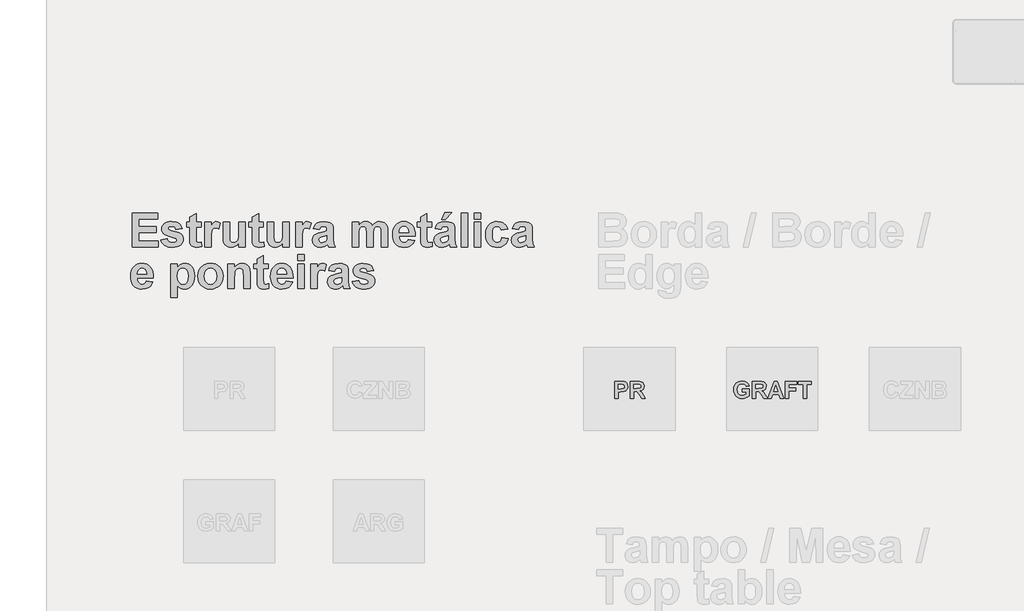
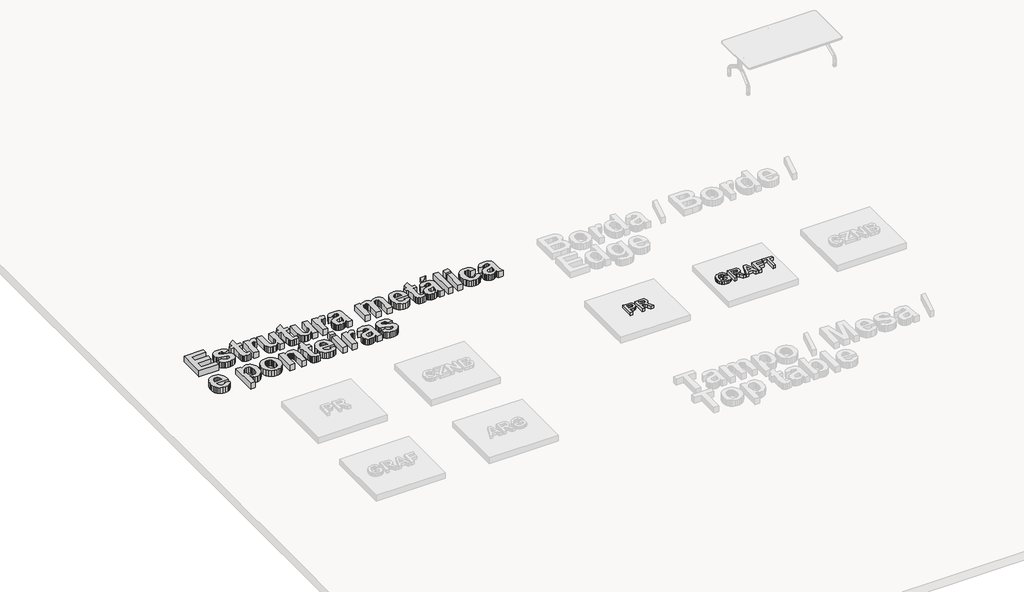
# One storey, part 4 of 11: 3 proxies.
"""IFC4 building model written with IfcOpenShell, lengths in millimetres."""

from ifc_helpers import new_model, si_unit, frame, origin, origin_with_axes, place, context, project, spatial, polyline, outline, extrude, element, save

model = new_model("IFC4")

# Units and contexts
model_context = context("Model", 3, world=origin())
ifc_project = project(units=[si_unit("LENGTHUNIT", "METRE", prefix="MILLI")], contexts=[model_context])

# Site, building, storey
site = spatial("IfcSite", under=ifc_project)
building = spatial("IfcBuilding", under=site)
storey = spatial("IfcBuildingStorey", under=building, Name="Biblioteca BIM Revit Metadil - Refeitório", Elevation=0.0)

# Proxies
placement = place(None, origin())
element("IfcBuildingElementProxy", 1, Name="Arial 200mm", ObjectType="Arial 200mm", at=placement, inside=storey, context=model_context, shape_type="SweptSolid", body=[
    extrude(outline(polyline([(-10237.345419, 2034.67545), (-10237.345419, 2070.303556), (-10149.8946133, 2070.303556), (-10149.8946133, 1988.925723), (-10165.5072138, 1976.9885361), (-10186.8385301, 1966.5822445), (-10211.1810287, 1959.3516115), (-10235.8271759, 1956.9414005), (-10265.2937451, 1960.2941875), (-10290.73697, 1970.3525484), (-10311.2585566, 1986.6420322), (-10325.9602112, 2008.688188), (-10334.8039775, 2034.7070801), (-10337.7518997, 2062.9147727), (-10334.4180907, 2092.9317051), (-10324.416664, 2119.4187221), (-10307.9880078, 2141.2624455), (-10285.3725108, 2157.3494969), (-10263.3832891, 2164.9407127), (-10236.5862975, 2167.4711179), (-10202.8243653, 2163.3845135), (-10177.3495104, 2151.1247), (-10159.8201279, 2131.6532315), (-10149.8946133, 2105.9316621), (-10188.7616381, 2099.4538246), (-10195.3027357, 2112.8966025), (-10205.8165695, 2123.1637219), (-10219.8729707, 2129.6731894), (-10237.0417704, 2131.8430119), (-10262.4849953, 2127.6045831), (-10282.1335921, 2114.8892967), (-10294.6970542, 2093.8236729), (-10298.8848749, 2064.5342321), (-10294.7223583, 2033.0496646), (-10282.2348083, 2010.5606879), (-10262.9910763, 1997.0673019), (-10238.5600136, 1992.5695065), (-10211.81363, 1997.5037968), (-10188.7616381, 2009.4726136), (-10188.7616381, 2034.67545), (-10237.345419, 2034.67545)])), frame((0.0, 0.0, 100.0), z_axis=(0.0, 0.0, 1.0), x_axis=(1.0, 0.0, 0.0)), (0.0, 0.0, 1.0), 50.0),
    extrude(outline(polyline([(-10111.0275886, 1960.1803192), (-10111.0275886, 2164.2321992), (-10025.1962422, 2164.2321992), (-9997.2352641, 2162.8531283), (-9978.1307044, 2158.7159158), (-9964.921989, 2151.0487878), (-9954.6485436, 2139.079971), (-9948.0441859, 2123.9354955), (-9945.8427333, 2106.7413918), (-9949.0247179, 2085.675768), (-9958.5706718, 2068.6334886), (-9974.4552908, 2056.3863271), (-9996.6532709, 2049.7060572), (-9976.2582045, 2032.7017339), (-9954.5979355, 1999.7558575), (-9929.6481397, 1960.1803192), (-9975.04361, 1960.1803192), (-10004.5987434, 2006.7903841), (-10027.8025596, 2034.4477135), (-10041.0618832, 2042.2666658), (-10063.2535373, 2044.3922062), (-10072.1605638, 2044.3922062), (-10072.1605638, 1960.1803192), (-10111.0275886, 1960.1803192)]), holes=[polyline([(-10072.1605638, 2080.0203122), (-10040.1256332, 2080.0203122), (-10001.2333044, 2082.3735891), (-9989.0873592, 2090.4708859), (-9984.7097581, 2104.8182838), (-9986.1520891, 2113.5545079), (-9990.4790821, 2120.4308842), (-10006.7748919, 2127.9461878), (-10038.3543496, 2128.6040932), (-10072.1605638, 2128.6040932), (-10072.1605638, 2080.0203122)])]), frame((0.0, 0.0, 100.0), z_axis=(0.0, 0.0, 1.0), x_axis=(1.0, 0.0, 0.0)), (0.0, 0.0, 1.0), 50.0),
    extrude(outline(polyline([(-9735.3130159, 1960.1803192), (-9776.1537567, 1960.1803192), (-9792.145918, 2005.5251814), (-9869.2220621, 2005.5251814), (-9885.0117909, 1960.1803192), (-9926.4092209, 1960.1803192), (-9851.9140902, 2164.2321992), (-9810.5166601, 2164.2321992), (-9735.3130159, 1960.1803192)]), holes=[polyline([(-9804.5955118, 2041.1532875), (-9830.8611184, 2115.6484183), (-9856.7724683, 2041.1532875), (-9804.5955118, 2041.1532875)])]), frame((0.0, 0.0, 100.0), z_axis=(0.0, 0.0, 1.0), x_axis=(1.0, 0.0, 0.0)), (0.0, 0.0, 1.0), 50.0),
    extrude(outline(polyline([(-9715.8795035, 1960.1803192), (-9715.8795035, 2164.2321992), (-9576.6059981, 2164.2321992), (-9576.6059981, 2128.6040932), (-9677.0124787, 2128.6040932), (-9677.0124787, 2083.259231), (-9589.561673, 2083.259231), (-9589.561673, 2047.6311249), (-9677.0124787, 2047.6311249), (-9677.0124787, 1960.1803192), (-9715.8795035, 1960.1803192)])), frame((0.0, 0.0, 100.0), z_axis=(0.0, 0.0, 1.0), x_axis=(1.0, 0.0, 0.0)), (0.0, 0.0, 1.0), 50.0),
    extrude(outline(polyline([(-9498.8719486, 1960.1803192), (-9498.8719486, 2128.6040932), (-9557.1724857, 2128.6040932), (-9557.1724857, 2164.2321992), (-9401.7043867, 2164.2321992), (-9401.7043867, 2128.6040932), (-9460.0049238, 2128.6040932), (-9460.0049238, 1960.1803192), (-9498.8719486, 1960.1803192)])), frame((0.0, 0.0, 100.0), z_axis=(0.0, 0.0, 1.0), x_axis=(1.0, 0.0, 0.0)), (0.0, 0.0, 1.0), 50.0),
])
element("IfcBuildingElementProxy", 2, Name="Arial 200mm", ObjectType="Arial 200mm", at=placement, inside=storey, context=model_context, shape_type="SweptSolid", body=[
    extrude(outline(polyline([(-11769.4881327, 1960.1803192), (-11769.4881327, 2164.2321992), (-11703.7482041, 2164.2321992), (-11655.0125988, 2161.1957129), (-11638.9761555, 2153.9524279), (-11625.7864181, 2141.3320316), (-11616.9616298, 2123.8026492), (-11614.0200336, 2101.8324056), (-11615.7470352, 2084.6446278), (-11620.92804, 2070.4300763), (-11628.7722963, 2059.0685567), (-11638.4890525, 2050.4398748), (-11660.1240174, 2040.7990307), (-11703.3939474, 2037.9143687), (-11730.6211079, 2037.9143687), (-11730.6211079, 1960.1803192), (-11769.4881327, 1960.1803192)]), holes=[polyline([(-11730.6211079, 2128.6040932), (-11730.6211079, 2073.5424748), (-11706.4810418, 2073.5424748), (-11671.6373614, 2076.5789611), (-11657.8719568, 2086.1185889), (-11652.8870584, 2101.2251083), (-11654.639364, 2110.8786044), (-11659.896281, 2118.6849046), (-11677.5838137, 2127.2882825), (-11709.3150957, 2128.6040932), (-11730.6211079, 2128.6040932)])]), frame((0.0, 0.0, 100.0), z_axis=(0.0, 0.0, 1.0), x_axis=(1.0, 0.0, 0.0)), (0.0, 0.0, 1.0), 50.0),
    extrude(outline(polyline([(-11581.6308463, 1960.1803192), (-11581.6308463, 2164.2321992), (-11495.7995, 2164.2321992), (-11467.8385219, 2162.8531283), (-11448.7339622, 2158.7159158), (-11435.5252468, 2151.0487878), (-11425.2518014, 2139.079971), (-11418.6474437, 2123.9354955), (-11416.4459911, 2106.7413918), (-11419.6279757, 2085.675768), (-11429.1739296, 2068.6334886), (-11445.0585486, 2056.3863271), (-11467.2565287, 2049.7060572), (-11446.8614623, 2032.7017339), (-11425.2011933, 1999.7558575), (-11400.2513975, 1960.1803192), (-11445.6468678, 1960.1803192), (-11475.2020012, 2006.7903841), (-11498.4058174, 2034.4477135), (-11511.665141, 2042.2666658), (-11533.8567951, 2044.3922062), (-11542.7638216, 2044.3922062), (-11542.7638216, 1960.1803192), (-11581.6308463, 1960.1803192)]), holes=[polyline([(-11542.7638216, 2080.0203122), (-11510.728891, 2080.0203122), (-11471.8365622, 2082.3735891), (-11459.690617, 2090.4708859), (-11455.3130159, 2104.8182838), (-11456.7553469, 2113.5545079), (-11461.0823399, 2120.4308842), (-11477.3781497, 2127.9461878), (-11508.9576073, 2128.6040932), (-11542.7638216, 2128.6040932), (-11542.7638216, 2080.0203122)])]), frame((0.0, 0.0, 100.0), z_axis=(0.0, 0.0, 1.0), x_axis=(1.0, 0.0, 0.0)), (0.0, 0.0, 1.0), 50.0),
])
element("IfcBuildingElementProxy", 3, Name="Arial 400mm", ObjectType="Arial 400mm", at=placement, inside=storey, context=model_context, shape_type="SweptSolid", body=[
    extrude(outline(polyline([(-17581.407689, 3784.7471537), (-17581.407689, 4192.8509137), (-17276.9493284, 4192.8509137), (-17276.9493284, 4121.5947017), (-17503.6736395, 4121.5947017), (-17503.6736395, 4030.9049772), (-17289.9050033, 4030.9049772), (-17289.9050033, 3959.6487652), (-17503.6736395, 3959.6487652), (-17503.6736395, 3856.0033658), (-17270.4714909, 3856.0033658), (-17270.4714909, 3784.7471537), (-17581.407689, 3784.7471537)])), origin_with_axes(), (0.0, 0.0, 1.0), 100.0),
    extrude(outline(polyline([(-17238.0823036, 3868.9590407), (-17160.3482541, 3881.9147156), (-17152.9468187, 3862.3293789), (-17140.4592687, 3848.1085014), (-17122.4554353, 3839.4545154), (-17098.5051496, 3836.5698534), (-17072.5178876, 3839.3279952), (-17053.8688008, 3847.6024203), (-17046.2775851, 3856.6106631), (-17043.7471798, 3868.2505272), (-17049.1116389, 3882.8256615), (-17074.5169077, 3893.0484988), (-17149.5940317, 3912.9374841), (-17191.0167658, 3931.1057939), (-17205.9398308, 3944.3208353), (-17216.599163, 3959.8765016), (-17222.9947622, 3977.7727928), (-17225.1266287, 3998.0097089), (-17223.2984109, 4016.5259493), (-17217.8137575, 4033.5112946), (-17208.6726685, 4048.9657447), (-17195.8751439, 4062.8892997), (-17179.2314033, 4074.4026436), (-17158.5516663, 4082.6264607), (-17133.835933, 4087.5607509), (-17105.0842032, 4089.2055144), (-17054.0965373, 4083.8916633), (-17034.239182, 4077.2493495), (-17018.1394786, 4067.9501102), (-17005.0256533, 4056.0445535), (-16994.1259327, 4041.5832874), (-16978.9688052, 4004.9936274), (-17056.7028547, 3992.0379525), (-17062.4215706, 4008.662715), (-17071.6828538, 4020.8845724), (-17085.0433936, 4028.399876), (-17103.059879, 4030.9049772), (-17125.200925, 4028.7794368), (-17140.0037958, 4022.4028156), (-17145.5453833, 4015.418897), (-17147.3925792, 4006.6130867), (-17145.5453833, 3998.9965669), (-17140.0037958, 3992.5440335), (-17117.8500978, 3983.2574462), (-17071.2273809, 3970.7825483), (-17021.2645291, 3955.0687316), (-16989.0904262, 3936.0653882), (-16978.9941092, 3924.5583702), (-16971.7824543, 3910.9890721), (-16967.4554613, 3895.3574936), (-16966.0131303, 3877.6636348), (-16968.1038776, 3857.9865709), (-16974.3761197, 3839.745512), (-16984.8298564, 3822.9404581), (-16999.4650878, 3807.5714092), (-17018.1995757, 3794.7517435), (-17040.951082, 3785.5948395), (-17067.7196066, 3780.1006971), (-17098.5051496, 3778.2693163), (-17126.7096792, 3779.7938854), (-17151.8081363, 3784.367593), (-17173.800521, 3791.9904388), (-17192.6868333, 3802.662423), (-17208.5240072, 3815.9533766), (-17221.3689769, 3831.4331307), (-17231.2217423, 3849.1016855), (-17238.0823036, 3868.9590407)])), origin_with_axes(), (0.0, 0.0, 1.0), 100.0),
    extrude(outline(polyline([(-16752.2444941, 4082.7276769), (-16752.2444941, 4024.4271398), (-16810.5450312, 4024.4271398), (-16810.5450312, 3896.5910661), (-16808.7737476, 3851.3980282), (-16800.7270588, 3840.7703261), (-16785.4434111, 3836.5698534), (-16749.0055754, 3844.059853), (-16745.7666566, 3788.7958022), (-16775.7519589, 3780.9009377), (-16809.4316529, 3778.2693163), (-16830.1303679, 3780.0912081), (-16848.7035425, 3785.5568834), (-16863.873322, 3793.9072208), (-16874.3618518, 3804.3830985), (-16881.2825102, 3817.9713748), (-16885.7486755, 3835.6589075), (-16888.2790808, 3892.2387691), (-16888.2790808, 4024.4271398), (-16927.1461055, 4024.4271398), (-16927.1461055, 4082.7276769), (-16888.2790808, 4082.7276769), (-16888.2790808, 4141.028214), (-16810.5450312, 4186.3730763), (-16810.5450312, 4082.7276769), (-16752.2444941, 4082.7276769)])), origin_with_axes(), (0.0, 0.0, 1.0), 100.0),
    extrude(outline(polyline([(-16629.1655824, 3784.7471537), (-16706.8996319, 3784.7471537), (-16706.8996319, 4082.7276769), (-16629.1655824, 4082.7276769), (-16629.1655824, 4041.2290307), (-16612.7432522, 4065.6347894), (-16598.0922058, 4079.9442311), (-16583.3652472, 4086.8901935), (-16566.7151806, 4089.2055144), (-16542.4485942, 4085.1062578), (-16519.0423455, 4072.8084883), (-16541.7147766, 3998.8194386), (-16560.4397755, 4008.3084583), (-16577.7477475, 4011.4714648), (-16592.6897906, 4009.2573602), (-16605.1267324, 4002.6150464), (-16615.1218332, 3990.2034086), (-16622.738353, 3970.6813321), (-16627.558775, 3934.9520098), (-16629.1655824, 3873.918635), (-16629.1655824, 3784.7471537)])), origin_with_axes(), (0.0, 0.0, 1.0), 100.0),
    extrude(outline(polyline([(-16298.7958719, 3784.7471537), (-16298.7958719, 3828.4725566), (-16316.6984891, 3807.5840612), (-16339.4341803, 3791.6804641), (-16365.3075741, 3781.6221032), (-16392.6232989, 3778.2693163), (-16419.622723, 3781.5588431), (-16443.7374851, 3791.4274236), (-16463.2722136, 3807.2551085), (-16476.5315372, 3828.4219485), (-16484.122753, 3856.8257475), (-16486.6531582, 3894.3643095), (-16486.6531582, 4082.7276769), (-16408.9191087, 4082.7276769), (-16408.9191087, 3944.9724147), (-16407.8689905, 3893.9720967), (-16404.718636, 3867.4914057), (-16398.7721836, 3854.7381632), (-16389.333772, 3844.9201908), (-16376.6437896, 3838.6574378), (-16360.942625, 3836.5698534), (-16342.3314944, 3839.3532992), (-16325.7699919, 3847.7036366), (-16312.6877968, 3860.1911865), (-16304.5145878, 3875.3862701), (-16300.2255509, 3903.8912853), (-16298.7958719, 3956.3086302), (-16298.7958719, 4082.7276769), (-16221.0618224, 4082.7276769), (-16221.0618224, 3784.7471537), (-16298.7958719, 3784.7471537)])), origin_with_axes(), (0.0, 0.0, 1.0), 100.0),
    extrude(outline(polyline([(-16000.8153487, 4082.7276769), (-16000.8153487, 4024.4271398), (-16059.1158859, 4024.4271398), (-16059.1158859, 3896.5910661), (-16057.3446022, 3851.3980282), (-16049.2979135, 3840.7703261), (-16034.0142657, 3836.5698534), (-15997.57643, 3844.059853), (-15994.3375113, 3788.7958022), (-16024.3228136, 3780.9009377), (-16058.0025076, 3778.2693163), (-16078.7012226, 3780.0912081), (-16097.2743972, 3785.5568834), (-16112.4441767, 3793.9072208), (-16122.9327065, 3804.3830985), (-16129.8533649, 3817.9713748), (-16134.3195301, 3835.6589075), (-16136.8499354, 3892.2387691), (-16136.8499354, 4024.4271398), (-16175.7169601, 4024.4271398), (-16175.7169601, 4082.7276769), (-16136.8499354, 4082.7276769), (-16136.8499354, 4141.028214), (-16059.1158859, 4186.3730763), (-16059.1158859, 4082.7276769), (-16000.8153487, 4082.7276769)])), origin_with_axes(), (0.0, 0.0, 1.0), 100.0),
    extrude(outline(polyline([(-15767.6132002, 3784.7471537), (-15767.6132002, 3828.4725566), (-15785.5158174, 3807.5840612), (-15808.2515086, 3791.6804641), (-15834.1249024, 3781.6221032), (-15861.4406271, 3778.2693163), (-15888.4400512, 3781.5588431), (-15912.5548133, 3791.4274236), (-15932.0895419, 3807.2551085), (-15945.3488655, 3828.4219485), (-15952.9400812, 3856.8257475), (-15955.4704865, 3894.3643095), (-15955.4704865, 4082.7276769), (-15877.736437, 4082.7276769), (-15877.736437, 3944.9724147), (-15876.6863188, 3893.9720967), (-15873.5359643, 3867.4914057), (-15867.5895119, 3854.7381632), (-15858.1511003, 3844.9201908), (-15845.4611179, 3838.6574378), (-15829.7599533, 3836.5698534), (-15811.1488226, 3839.3532992), (-15794.5873202, 3847.7036366), (-15781.505125, 3860.1911865), (-15773.331916, 3875.3862701), (-15769.0428791, 3903.8912853), (-15767.6132002, 3956.3086302), (-15767.6132002, 4082.7276769), (-15689.8791506, 4082.7276769), (-15689.8791506, 3784.7471537), (-15767.6132002, 3784.7471537)])), origin_with_axes(), (0.0, 0.0, 1.0), 100.0),
    extrude(outline(polyline([(-15534.4110516, 3784.7471537), (-15612.1451011, 3784.7471537), (-15612.1451011, 4082.7276769), (-15534.4110516, 4082.7276769), (-15534.4110516, 4041.2290307), (-15517.9887215, 4065.6347894), (-15503.337675, 4079.9442311), (-15488.6107164, 4086.8901935), (-15471.9606498, 4089.2055144), (-15447.6940634, 4085.1062578), (-15424.2878148, 4072.8084883), (-15446.9602459, 3998.8194386), (-15465.6852448, 4008.3084583), (-15482.9932168, 4011.4714648), (-15497.9352598, 4009.2573602), (-15510.3722017, 4002.6150464), (-15520.3673024, 3990.2034086), (-15527.9838222, 3970.6813321), (-15532.8042443, 3934.9520098), (-15534.4110516, 3873.918635), (-15534.4110516, 3784.7471537)])), origin_with_axes(), (0.0, 0.0, 1.0), 100.0),
    extrude(outline(polyline([(-15327.1202529, 3992.0379525), (-15398.3764649, 4004.9936274), (-15382.9283408, 4042.342409), (-15372.1203474, 4056.8416311), (-15359.2563997, 4068.5574075), (-15343.6849183, 4077.5909542), (-15324.754324, 4084.0434876), (-15276.8157964, 4089.2055144), (-15233.4699543, 4086.0804639), (-15202.8267466, 4076.7053124), (-15182.1280316, 4062.5350429), (-15168.6156675, 4045.0246386), (-15161.1762761, 4017.81013), (-15158.6964789, 3974.5275481), (-15158.6964789, 3882.6232291), (-15154.5972224, 3824.7275568), (-15139.2629665, 3784.7471537), (-15216.9970161, 3784.7471537), (-15224.2845832, 3809.4439091), (-15227.0174209, 3819.2618815), (-15247.1341427, 3801.3592643), (-15268.6172833, 3788.5427616), (-15291.5174509, 3780.8376776), (-15315.8852535, 3778.2693163), (-15336.8781282, 3779.8286785), (-15355.5240519, 3784.5067652), (-15371.8230248, 3792.3035764), (-15385.7750468, 3803.2191121), (-15396.956275, 3816.5132287), (-15404.9428666, 3831.4457828), (-15409.7348215, 3848.0167742), (-15411.3321399, 3866.226203), (-15408.4854339, 3890.0626206), (-15399.9453162, 3911.1662004), (-15386.2684758, 3928.6006926), (-15368.0116018, 3941.4298473), (-15342.9352857, 3951.2731238), (-15308.8001188, 3959.7499814), (-15264.593939, 3969.7450821), (-15236.4305284, 3979.0822775), (-15236.4305284, 3987.2807906), (-15238.8470655, 4007.4734245), (-15246.0966765, 4020.8845724), (-15260.0265575, 4028.399876), (-15282.4839041, 4030.9049772), (-15298.6025856, 4028.7541328), (-15310.7232268, 4022.3015993), (-15319.8832938, 4010.4339987), (-15327.1202529, 3992.0379525)]), holes=[polyline([(-15236.4305284, 3920.7817404), (-15280.2571475, 3910.002214), (-15319.5290371, 3897.7044444), (-15330.080827, 3886.6465735), (-15333.5980903, 3872.9064729), (-15330.7766885, 3859.1284163), (-15322.3124829, 3847.3493798), (-15309.4959803, 3839.264735), (-15293.6176873, 3836.5698534), (-15274.5637357, 3839.7075559), (-15256.4713381, 3849.1206635), (-15245.5905955, 3859.6977575), (-15239.2645823, 3872.4003919), (-15236.4305284, 3906.7126872), (-15236.4305284, 3920.7817404)])]), origin_with_axes(), (0.0, 0.0, 1.0), 100.0),
    extrude(outline(polyline([(-14931.9721678, 4082.7276769), (-14854.2381183, 4082.7276769), (-14854.2381183, 4042.84849), (-14835.1019285, 4063.1296882), (-14814.2324112, 4077.6162583), (-14791.6295662, 4086.3082003), (-14767.2933936, 4089.2055144), (-14742.2550336, 4086.3588084), (-14720.784545, 4077.8186907), (-14702.8566238, 4063.509249), (-14688.4459658, 4043.3545711), (-14668.5443285, 4063.509249), (-14647.0991439, 4077.8186907), (-14624.1357162, 4086.3588084), (-14599.6793494, 4089.2055144), (-14570.14952, 4085.8780314), (-14545.5286768, 4075.8955827), (-14526.1457726, 4059.4606006), (-14512.3297599, 4036.7755174), (-14506.4086116, 4011.8510256), (-14504.4348955, 3975.1348453), (-14504.4348955, 3784.7471537), (-14582.168945, 3784.7471537), (-14582.168945, 3956.3086302), (-14584.1426611, 3993.0248105), (-14590.0638094, 4013.9006539), (-14603.4749572, 4026.6538964), (-14622.6554291, 4030.9049772), (-14638.1794654, 4028.3619199), (-14652.7672517, 4020.7327481), (-14664.9131969, 4008.19459), (-14673.1117099, 3990.9245741), (-14677.7803076, 3965.5952175), (-14679.3365069, 3928.8790372), (-14679.3365069, 3784.7471537), (-14757.0705564, 3784.7471537), (-14757.0705564, 3949.2234955), (-14761.1192048, 4005.752749), (-14766.2685795, 4016.835924), (-14773.6194068, 4024.6801803), (-14783.6018555, 4029.348778), (-14796.6460946, 4030.9049772), (-14813.2708572, 4028.4378321), (-14828.124336, 4021.0363967), (-14840.118457, 4008.9663636), (-14848.1651457, 3992.4934254), (-14852.7198751, 3967.6828019), (-14854.2381183, 3930.5997128), (-14854.2381183, 3784.7471537), (-14931.9721678, 3784.7471537), (-14931.9721678, 4082.7276769)])), origin_with_axes(), (0.0, 0.0, 1.0), 100.0),
    extrude(outline(polyline([(-14258.277072, 3875.4368782), (-14180.5430225, 3862.4812033), (-14199.4704538, 3826.2078439), (-14212.1224801, 3811.7623929), (-14226.9000468, 3799.777761), (-14243.7335678, 3790.3678164), (-14262.5534569, 3783.6464275), (-14306.1523395, 3778.2693163), (-14341.3566026, 3781.4386489), (-14371.6645316, 3790.9466466), (-14397.0761264, 3806.7933095), (-14417.591387, 3828.9786376), (-14430.078937, 3850.6072766), (-14438.9986155, 3874.9054931), (-14444.3504226, 3901.8732871), (-14446.1343583, 3931.5106587), (-14443.7684294, 3966.4555553), (-14436.6706427, 3997.4024116), (-14424.8409981, 4024.3512276), (-14408.2794957, 4047.3020033), (-14388.0995137, 4065.6347894), (-14365.4144306, 4078.7296366), (-14340.2242463, 4086.5865449), (-14312.5289607, 4089.2055144), (-14281.7529068, 4086.5169588), (-14254.4055519, 4078.451292), (-14230.4868962, 4065.0085141), (-14209.9969397, 4046.188625), (-14193.6694997, 4021.8144963), (-14182.238394, 3991.7089998), (-14175.7036224, 3955.8721353), (-14174.065185, 3914.3039029), (-14368.4003088, 3914.3039029), (-14363.4154104, 3881.5604589), (-14350.0801747, 3857.0155279), (-14330.4189259, 3841.681272), (-14306.4559881, 3836.5698534), (-14290.1348742, 3838.8725222), (-14276.597206, 3845.7805286), (-14265.9441999, 3857.7999535), (-14258.277072, 3875.4368782)]), holes=[polyline([(-14251.7992345, 3959.6487652), (-14256.5310923, 3990.380537), (-14269.1072065, 4012.7366675), (-14287.3767324, 4026.3628998), (-14309.1888258, 4030.9049772), (-14332.2155136, 4026.1225113), (-14350.8899044, 4011.7751135), (-14363.1370659, 3989.1279864), (-14367.0844981, 3959.6487652), (-14251.7992345, 3959.6487652)])]), origin_with_axes(), (0.0, 0.0, 1.0), 100.0),
    extrude(outline(polyline([(-13973.2522237, 4082.7276769), (-13973.2522237, 4024.4271398), (-14031.5527609, 4024.4271398), (-14031.5527609, 3896.5910661), (-14029.7814772, 3851.3980282), (-14021.7347885, 3840.7703261), (-14006.4511407, 3836.5698534), (-13970.013305, 3844.059853), (-13966.7743863, 3788.7958022), (-13996.7596886, 3780.9009377), (-14030.4393826, 3778.2693163), (-14051.1380976, 3780.0912081), (-14069.7112722, 3785.5568834), (-14084.8810517, 3793.9072208), (-14095.3695815, 3804.3830985), (-14102.2902399, 3817.9713748), (-14106.7564051, 3835.6589075), (-14109.2868104, 3892.2387691), (-14109.2868104, 4024.4271398), (-14148.1538352, 4024.4271398), (-14148.1538352, 4082.7276769), (-14109.2868104, 4082.7276769), (-14109.2868104, 4141.028214), (-14031.5527609, 4186.3730763), (-14031.5527609, 4082.7276769), (-13973.2522237, 4082.7276769)])), origin_with_axes(), (0.0, 0.0, 1.0), 100.0),
    extrude(outline(polyline([(-13863.1289869, 3992.0379525), (-13934.385199, 4004.9936274), (-13918.9370749, 4042.342409), (-13908.1290814, 4056.8416311), (-13895.2651337, 4068.5574075), (-13879.6936523, 4077.5909542), (-13860.763058, 4084.0434876), (-13812.8245304, 4089.2055144), (-13769.4786883, 4086.0804639), (-13738.8354806, 4076.7053124), (-13718.1367656, 4062.5350429), (-13704.6244016, 4045.0246386), (-13697.1850101, 4017.81013), (-13694.705213, 3974.5275481), (-13694.705213, 3882.6232291), (-13690.6059564, 3824.7275568), (-13675.2717006, 3784.7471537), (-13753.0057501, 3784.7471537), (-13760.2933172, 3809.4439091), (-13763.0261549, 3819.2618815), (-13783.1428767, 3801.3592643), (-13804.6260174, 3788.5427616), (-13827.5261849, 3780.8376776), (-13851.8939876, 3778.2693163), (-13872.8868622, 3779.8286785), (-13891.5327859, 3784.5067652), (-13907.8317588, 3792.3035764), (-13921.7837808, 3803.2191121), (-13932.965009, 3816.5132287), (-13940.9516006, 3831.4457828), (-13945.7435556, 3848.0167742), (-13947.3408739, 3866.226203), (-13944.494168, 3890.0626206), (-13935.9540502, 3911.1662004), (-13922.2772098, 3928.6006926), (-13904.0203359, 3941.4298473), (-13878.9440198, 3951.2731238), (-13844.8088528, 3959.7499814), (-13800.602673, 3969.7450821), (-13772.4392625, 3979.0822775), (-13772.4392625, 3987.2807906), (-13774.8557995, 4007.4734245), (-13782.1054106, 4020.8845724), (-13796.0352915, 4028.399876), (-13818.4926382, 4030.9049772), (-13834.6113197, 4028.7541328), (-13846.7319608, 4022.3015993), (-13855.8920279, 4010.4339987), (-13863.1289869, 3992.0379525)]), holes=[polyline([(-13772.4392625, 3920.7817404), (-13816.2658815, 3910.002214), (-13855.5377711, 3897.7044444), (-13866.0895611, 3886.6465735), (-13869.6068244, 3872.9064729), (-13866.7854225, 3859.1284163), (-13858.3212169, 3847.3493798), (-13845.5047143, 3839.264735), (-13829.6264213, 3836.5698534), (-13810.5724697, 3839.7075559), (-13792.4800721, 3849.1206635), (-13781.5993295, 3859.6977575), (-13775.2733164, 3872.4003919), (-13772.4392625, 3906.7126872), (-13772.4392625, 3920.7817404)])]), origin_with_axes(), (0.0, 0.0, 1.0), 100.0),
    extrude(outline(polyline([(-13856.6511495, 4115.1168642), (-13817.7841247, 4199.3287512), (-13733.5722377, 4199.3287512), (-13811.3062872, 4115.1168642), (-13856.6511495, 4115.1168642)])), origin_with_axes(), (0.0, 0.0, 1.0), 100.0),
    extrude(outline(polyline([(-13616.9711634, 3784.7471537), (-13616.9711634, 4192.8509137), (-13539.2371139, 4192.8509137), (-13539.2371139, 3784.7471537), (-13616.9711634, 3784.7471537)])), origin_with_axes(), (0.0, 0.0, 1.0), 100.0),
    extrude(outline(polyline([(-13461.5030644, 4121.5947017), (-13461.5030644, 4192.8509137), (-13383.7690149, 4192.8509137), (-13383.7690149, 4121.5947017), (-13461.5030644, 4121.5947017)])), origin_with_axes(), (0.0, 0.0, 1.0), 100.0),
    extrude(outline(polyline([(-13461.5030644, 3784.7471537), (-13461.5030644, 4082.7276769), (-13383.7690149, 4082.7276769), (-13383.7690149, 3784.7471537), (-13461.5030644, 3784.7471537)])), origin_with_axes(), (0.0, 0.0, 1.0), 100.0),
    extrude(outline(polyline([(-13059.8771419, 3998.5157899), (-13137.6111914, 3985.560115), (-13143.5702958, 4005.3352321), (-13154.1600418, 4019.5181536), (-13169.0008686, 4028.0582713), (-13187.7132155, 4030.9049772), (-13212.3593627, 4025.5658221), (-13231.4386183, 4009.5483568), (-13238.5680352, 3997.0797849), (-13243.6604757, 3981.0306896), (-13247.7344282, 3938.1909286), (-13243.4959994, 3890.6952219), (-13238.1979634, 3873.0772753), (-13230.780713, 3859.5459332), (-13210.9296837, 3842.3138734), (-13185.2840264, 3836.5698534), (-13165.8631661, 3839.8467282), (-13150.3138258, 3849.6773527), (-13138.7119177, 3867.5293617), (-13131.1333539, 3894.8703906), (-13053.3993044, 3881.9147156), (-13060.5635143, 3857.8284206), (-13070.4162798, 3836.8861541), (-13082.9576008, 3819.0879161), (-13098.1874775, 3804.4337066), (-13116.1691698, 3792.9867859), (-13136.965938, 3784.8104139), (-13160.5777821, 3779.9045907), (-13187.004702, 3778.2693163), (-13217.0311234, 3780.8440036), (-13243.8502561, 3788.5680657), (-13267.4621002, 3801.4415024), (-13287.8666556, 3819.4643139), (-13304.3174528, 3842.0355288), (-13316.0680222, 3868.5541759), (-13323.1183638, 3899.0202552), (-13325.4684777, 3933.4337667), (-13323.1341789, 3968.236328), (-13316.1312823, 3998.9586108), (-13304.4597881, 4025.6006152), (-13288.1196961, 4048.1623411), (-13267.7942159, 4066.1187294), (-13244.1665568, 4078.944721), (-13217.2367188, 4086.640316), (-13187.004702, 4089.2055144), (-13140.2175088, 4083.6006667), (-13120.8282785, 4076.5946072), (-13104.1086258, 4066.7861238), (-13089.8055101, 4054.1119564), (-13077.6658908, 4038.508845), (-13059.8771419, 3998.5157899)])), origin_with_axes(), (0.0, 0.0, 1.0), 100.0),
    extrude(outline(polyline([(-12930.3203927, 3992.0379525), (-13001.5766047, 4004.9936274), (-12986.1284806, 4042.342409), (-12975.3204872, 4056.8416311), (-12962.4565394, 4068.5574075), (-12946.8850581, 4077.5909542), (-12927.9544638, 4084.0434876), (-12880.0159361, 4089.2055144), (-12836.6700941, 4086.0804639), (-12806.0268864, 4076.7053124), (-12785.3281714, 4062.5350429), (-12771.8158073, 4045.0246386), (-12764.3764159, 4017.81013), (-12761.8966187, 3974.5275481), (-12761.8966187, 3882.6232291), (-12757.7973622, 3824.7275568), (-12742.4631063, 3784.7471537), (-12820.1971558, 3784.7471537), (-12827.484723, 3809.4439091), (-12830.2175607, 3819.2618815), (-12850.3342825, 3801.3592643), (-12871.8174231, 3788.5427616), (-12894.7175907, 3780.8376776), (-12919.0853933, 3778.2693163), (-12940.0782679, 3779.8286785), (-12958.7241917, 3784.5067652), (-12975.0231646, 3792.3035764), (-12988.9751865, 3803.2191121), (-13000.1564148, 3816.5132287), (-13008.1430064, 3831.4457828), (-13012.9349613, 3848.0167742), (-13014.5322796, 3866.226203), (-13011.6855737, 3890.0626206), (-13003.145456, 3911.1662004), (-12989.4686156, 3928.6006926), (-12971.2117416, 3941.4298473), (-12946.1354255, 3951.2731238), (-12912.0002586, 3959.7499814), (-12867.7940787, 3969.7450821), (-12839.6306682, 3979.0822775), (-12839.6306682, 3987.2807906), (-12842.0472052, 4007.4734245), (-12849.2968163, 4020.8845724), (-12863.2266973, 4028.399876), (-12885.6840439, 4030.9049772), (-12901.8027254, 4028.7541328), (-12913.9233666, 4022.3015993), (-12923.0834336, 4010.4339987), (-12930.3203927, 3992.0379525)]), holes=[polyline([(-12839.6306682, 3920.7817404), (-12883.4572873, 3910.002214), (-12922.7291769, 3897.7044444), (-12933.2809668, 3886.6465735), (-12936.7982301, 3872.9064729), (-12933.9768283, 3859.1284163), (-12925.5126227, 3847.3493798), (-12912.69612, 3839.264735), (-12896.8178271, 3836.5698534), (-12877.7638755, 3839.7075559), (-12859.6714779, 3849.1206635), (-12848.7907353, 3859.6977575), (-12842.4647221, 3872.4003919), (-12839.6306682, 3906.7126872), (-12839.6306682, 3920.7817404)])]), origin_with_axes(), (0.0, 0.0, 1.0), 100.0),
    extrude(outline(polyline([(-17412.983915, 3371.7914788), (-17335.2498655, 3358.8358039), (-17354.1772968, 3322.5624445), (-17366.8293231, 3308.1169935), (-17381.6068898, 3296.1323616), (-17398.4404108, 3286.7224171), (-17417.2602999, 3280.0010281), (-17460.8591825, 3274.6239169), (-17496.0634456, 3277.7932495), (-17526.3713746, 3287.3012473), (-17551.7829694, 3303.1479102), (-17572.2982301, 3325.3332383), (-17584.78578, 3346.9618772), (-17593.7054585, 3371.2600937), (-17599.0572657, 3398.2278877), (-17600.8412014, 3427.8652593), (-17598.4752724, 3462.8101559), (-17591.3774857, 3493.7570122), (-17579.5478411, 3520.7058282), (-17562.9863387, 3543.6566039), (-17542.8063568, 3561.98939), (-17520.1212736, 3575.0842372), (-17494.9310893, 3582.9411456), (-17467.2358037, 3585.560115), (-17436.4597498, 3582.8715594), (-17409.112395, 3574.8058927), (-17385.1937393, 3561.3631147), (-17364.7037827, 3542.5432256), (-17348.3763428, 3518.169097), (-17336.945237, 3488.0636004), (-17330.4104654, 3452.226736), (-17328.772028, 3410.6585036), (-17523.1071518, 3410.6585036), (-17518.1222535, 3377.9150595), (-17504.7870178, 3353.3701285), (-17485.1257689, 3338.0358727), (-17461.1628311, 3332.9244541), (-17444.8417172, 3335.2271228), (-17431.3040491, 3342.1351292), (-17420.6510429, 3354.1545542), (-17412.983915, 3371.7914788)]), holes=[polyline([(-17406.5060776, 3456.0033658), (-17411.2379354, 3486.7351377), (-17423.8140495, 3509.0912681), (-17442.0835755, 3522.7175004), (-17463.8956688, 3527.2595779), (-17486.9223567, 3522.4771119), (-17505.5967475, 3508.1297141), (-17517.8439089, 3485.4825871), (-17521.7913411, 3456.0033658), (-17406.5060776, 3456.0033658)])]), origin_with_axes(), (0.0, 0.0, 1.0), 100.0),
    extrude(outline(polyline([(-17115.0033919, 3579.0822775), (-17037.2693423, 3579.0822775), (-17037.2693423, 3536.1666044), (-17021.2012689, 3556.1315019), (-17000.3254256, 3571.8959266), (-16975.7551905, 3582.1440679), (-16948.6039421, 3585.560115), (-16924.7896656, 3583.0202207), (-16902.841563, 3575.4005379), (-16882.7596343, 3562.7010665), (-16864.5438794, 3544.9218066), (-16849.421545, 3522.6131212), (-16838.6198776, 3496.3253736), (-16832.1388771, 3466.0585637), (-16829.9785436, 3431.8126915), (-16832.2084632, 3396.5957764), (-16838.8982221, 3365.5413778), (-16850.0478203, 3338.649496), (-16865.6572577, 3315.9201307), (-16884.4423538, 3297.8530372), (-16905.1189277, 3284.9479704), (-16927.6869796, 3277.2049303), (-16952.1465095, 3274.6239169), (-16975.1985014, 3277.0278019), (-16995.9731285, 3284.2394569), (-17016.1151544, 3297.296348), (-17037.2693423, 3317.2359415), (-17037.2693423, 3170.9785176), (-17115.0033919, 3170.9785176), (-17115.0033919, 3579.0822775)]), holes=[polyline([(-17037.2693423, 3435.2540427), (-17032.3983122, 3389.7573561), (-17026.3095246, 3372.1330835), (-17017.7852218, 3357.924858), (-16996.1629089, 3339.174555), (-16983.7481081, 3334.4869793), (-16970.2642111, 3332.9244541), (-16945.681324, 3338.655822), (-16925.5772543, 3355.8499257), (-16917.761465, 3369.1503683), (-16912.1787584, 3386.1262246), (-16907.7125931, 3431.1041781), (-16912.3052787, 3473.6149864), (-16918.0461356, 3490.1638368), (-16926.0833353, 3503.5749846), (-16946.6681821, 3521.3384296), (-16971.6812381, 3527.2595779), (-16997.5293278, 3521.4522978), (-17018.5949515, 3504.0304576), (-17026.7649975, 3491.0210116), (-17032.6007446, 3475.2217937), (-17037.2693423, 3435.2540427)])]), origin_with_axes(), (0.0, 0.0, 1.0), 100.0),
    extrude(outline(polyline([(-16791.1115189, 3434.3430968), (-16786.3164009, 3472.8938209), (-16771.931047, 3510.2046464), (-16748.7651869, 3542.5558776), (-16717.6285502, 3566.2278188), (-16680.4568969, 3580.727041), (-16639.1859872, 3585.560115), (-16607.1985017, 3582.8209513), (-16578.2411765, 3574.6034602), (-16552.3140117, 3560.9076418), (-16529.4170071, 3541.7334959), (-16510.7078232, 3518.3715294), (-16497.3441204, 3492.1122488), (-16489.3258988, 3462.9556542), (-16486.6531582, 3430.9017456), (-16489.3543658, 3398.5916335), (-16497.4579887, 3369.1725094), (-16510.9640267, 3342.6443733), (-16529.87248, 3319.0072251), (-16552.8738638, 3299.5895278), (-16578.6586934, 3285.719744), (-16607.2269688, 3277.3978737), (-16638.5786899, 3274.6239169), (-16678.2174883, 3279.2419065), (-16715.9584827, 3293.0958753), (-16748.34767, 3315.8821746), (-16771.931047, 3347.2971559), (-16786.3164009, 3386.9233023), (-16791.1115189, 3434.3430968)]), holes=[polyline([(-16713.3774693, 3430.092016), (-16708.0003582, 3388.5301096), (-16701.2789692, 3371.87688), (-16691.8690246, 3357.9754661), (-16680.485364, 3347.0156483), (-16667.8428267, 3339.1872071), (-16653.9414128, 3334.4901423), (-16638.7811223, 3332.9244541), (-16623.6271578, 3334.4901423), (-16609.744722, 3339.1872071), (-16597.1338148, 3347.0156483), (-16585.7944362, 3357.9754661), (-16576.4287738, 3371.9148361), (-16569.7390149, 3388.6819339), (-16564.3872078, 3430.6993132), (-16569.7390149, 3471.8057466), (-16576.4287738, 3488.345108), (-16585.7944362, 3502.2085658), (-16597.1338148, 3513.1683836), (-16609.744722, 3520.9968248), (-16623.6271578, 3525.6938896), (-16638.7811223, 3527.2595779), (-16653.9414128, 3525.6938896), (-16667.8428267, 3520.9968248), (-16680.485364, 3513.1683836), (-16691.8690246, 3502.2085658), (-16701.2789692, 3488.3071519), (-16708.0003582, 3471.6539223), (-16713.3774693, 3430.092016)])]), origin_with_axes(), (0.0, 0.0, 1.0), 100.0),
    extrude(outline(polyline([(-16162.7612852, 3281.1017544), (-16240.4953347, 3281.1017544), (-16240.4953347, 3434.2418806), (-16241.7099293, 3474.3234999), (-16245.3537128, 3497.1983634), (-16251.7556381, 3509.8756937), (-16261.2446579, 3519.3647135), (-16273.365299, 3525.2858618), (-16287.6620888, 3527.2595779), (-16306.4756518, 3524.438176), (-16323.2395867, 3515.9739704), (-16336.4989102, 3502.8411671), (-16344.7986395, 3486.0139722), (-16349.1635885, 3459.4320649), (-16350.6185716, 3417.0351248), (-16350.6185716, 3281.1017544), (-16428.3526211, 3281.1017544), (-16428.3526211, 3579.0822775), (-16350.6185716, 3579.0822775), (-16350.6185716, 3536.1666044), (-16330.9509967, 3557.7762653), (-16308.8921889, 3573.2117373), (-16284.4421481, 3582.4730206), (-16257.6008743, 3585.560115), (-16233.9668892, 3583.2068381), (-16212.4584445, 3576.1470074), (-16194.4925672, 3565.4433932), (-16181.4862841, 3552.1587656), (-16172.5666056, 3536.6094253), (-16166.8605417, 3519.1116729), (-16162.7612852, 3466.1249868), (-16162.7612852, 3281.1017544)])), origin_with_axes(), (0.0, 0.0, 1.0), 100.0),
    extrude(outline(polyline([(-15942.5148116, 3579.0822775), (-15942.5148116, 3520.7817404), (-16000.8153487, 3520.7817404), (-16000.8153487, 3392.9456668), (-15999.044065, 3347.7526289), (-15990.9973763, 3337.1249268), (-15975.7137286, 3332.9244541), (-15939.2758929, 3340.4144536), (-15936.0369741, 3285.1504028), (-15966.0222764, 3277.2555384), (-15999.7019704, 3274.6239169), (-16020.4006854, 3276.4458087), (-16038.97386, 3281.9114841), (-16054.1436395, 3290.2618214), (-16064.6321693, 3300.7376992), (-16071.5528277, 3314.3259754), (-16076.018993, 3332.0135082), (-16078.5493982, 3388.5933697), (-16078.5493982, 3520.7817404), (-16117.416423, 3520.7817404), (-16117.416423, 3579.0822775), (-16078.5493982, 3579.0822775), (-16078.5493982, 3637.3828147), (-16000.8153487, 3682.7276769), (-16000.8153487, 3579.0822775), (-15942.5148116, 3579.0822775)])), origin_with_axes(), (0.0, 0.0, 1.0), 100.0),
    extrude(outline(polyline([(-15728.7461754, 3371.7914788), (-15651.0121259, 3358.8358039), (-15669.9395572, 3322.5624445), (-15682.5915835, 3308.1169935), (-15697.3691502, 3296.1323616), (-15714.2026712, 3286.7224171), (-15733.0225603, 3280.0010281), (-15776.6214429, 3274.6239169), (-15811.825706, 3277.7932495), (-15842.133635, 3287.3012473), (-15867.5452298, 3303.1479102), (-15888.0604904, 3325.3332383), (-15900.5480404, 3346.9618772), (-15909.4677189, 3371.2600937), (-15914.819526, 3398.2278877), (-15916.6034617, 3427.8652593), (-15914.2375328, 3462.8101559), (-15907.1397461, 3493.7570122), (-15895.3101015, 3520.7058282), (-15878.7485991, 3543.6566039), (-15858.5686172, 3561.98939), (-15835.883534, 3575.0842372), (-15810.6933497, 3582.9411456), (-15782.9980641, 3585.560115), (-15752.2220102, 3582.8715594), (-15724.8746554, 3574.8058927), (-15700.9559997, 3561.3631147), (-15680.4660431, 3542.5432256), (-15664.1386032, 3518.169097), (-15652.7074974, 3488.0636004), (-15646.1727258, 3452.226736), (-15644.5342884, 3410.6585036), (-15838.8694122, 3410.6585036), (-15833.8845139, 3377.9150595), (-15820.5492782, 3353.3701285), (-15800.8880293, 3338.0358727), (-15776.9250915, 3332.9244541), (-15760.6039776, 3335.2271228), (-15747.0663095, 3342.1351292), (-15736.4133033, 3354.1545542), (-15728.7461754, 3371.7914788)]), holes=[polyline([(-15722.2683379, 3456.0033658), (-15727.0001958, 3486.7351377), (-15739.5763099, 3509.0912681), (-15757.8458359, 3522.7175004), (-15779.6579292, 3527.2595779), (-15802.684617, 3522.4771119), (-15821.3590078, 3508.1297141), (-15833.6061693, 3485.4825871), (-15837.5536015, 3456.0033658), (-15722.2683379, 3456.0033658)])]), origin_with_axes(), (0.0, 0.0, 1.0), 100.0),
    extrude(outline(polyline([(-15586.2337513, 3617.9493023), (-15586.2337513, 3689.2055144), (-15508.4997018, 3689.2055144), (-15508.4997018, 3617.9493023), (-15586.2337513, 3617.9493023)])), origin_with_axes(), (0.0, 0.0, 1.0), 100.0),
    extrude(outline(polyline([(-15586.2337513, 3281.1017544), (-15586.2337513, 3579.0822775), (-15508.4997018, 3579.0822775), (-15508.4997018, 3281.1017544), (-15586.2337513, 3281.1017544)])), origin_with_axes(), (0.0, 0.0, 1.0), 100.0),
    extrude(outline(polyline([(-15353.0316027, 3281.1017544), (-15430.7656522, 3281.1017544), (-15430.7656522, 3579.0822775), (-15353.0316027, 3579.0822775), (-15353.0316027, 3537.5836313), (-15336.6092726, 3561.98939), (-15321.9582262, 3576.2988318), (-15307.2312676, 3583.2447942), (-15290.581201, 3585.560115), (-15266.3146145, 3581.4608585), (-15242.9083659, 3569.1630889), (-15265.580797, 3495.1740392), (-15284.3057959, 3504.6630589), (-15301.6137679, 3507.8260655), (-15316.5558109, 3505.6119609), (-15328.9927528, 3498.9696471), (-15338.9878535, 3486.5580093), (-15346.6043734, 3467.0359327), (-15351.4247954, 3431.3066105), (-15353.0316027, 3370.2732357), (-15353.0316027, 3281.1017544)])), origin_with_axes(), (0.0, 0.0, 1.0), 100.0),
    extrude(outline(polyline([(-15145.740804, 3488.3925531), (-15216.9970161, 3501.348228), (-15201.548892, 3538.6970096), (-15190.7408985, 3553.1962318), (-15177.8769508, 3564.9120081), (-15162.3054694, 3573.9455549), (-15143.3748751, 3580.3980883), (-15095.4363475, 3585.560115), (-15052.0905054, 3582.4350645), (-15021.4472977, 3573.059913), (-15000.7485827, 3558.8896436), (-14987.2362187, 3541.3792392), (-14979.7968272, 3514.1647307), (-14977.31703, 3470.8821487), (-14977.31703, 3378.9778298), (-14973.2177735, 3321.0821575), (-14957.8835177, 3281.1017544), (-15035.6175672, 3281.1017544), (-15042.9051343, 3305.7985097), (-15045.637972, 3315.6164821), (-15065.7546938, 3297.7138649), (-15087.2378344, 3284.8973623), (-15110.138002, 3277.1922783), (-15134.5058047, 3274.6239169), (-15155.4986793, 3276.1832792), (-15174.144603, 3280.8613659), (-15190.4435759, 3288.6581771), (-15204.3955979, 3299.5737128), (-15215.5768261, 3312.8678294), (-15223.5634177, 3327.8003834), (-15228.3553727, 3344.3713748), (-15229.952691, 3362.5808037), (-15227.1059851, 3386.4172212), (-15218.5658673, 3407.5208011), (-15204.8890269, 3424.9552933), (-15186.632153, 3437.7844479), (-15161.5558369, 3447.6277244), (-15127.4206699, 3456.104582), (-15083.2144901, 3466.0996828), (-15055.0510796, 3475.4368782), (-15055.0510796, 3483.6353912), (-15057.4676166, 3503.8280252), (-15064.7172276, 3517.239173), (-15078.6471086, 3524.7544767), (-15101.1044553, 3527.2595779), (-15117.2231367, 3525.1087334), (-15129.3437779, 3518.6562), (-15138.503845, 3506.7885993), (-15145.740804, 3488.3925531)]), holes=[polyline([(-15055.0510796, 3417.136341), (-15098.8776986, 3406.3568146), (-15138.1495882, 3394.0590451), (-15148.7013782, 3383.0011741), (-15152.2186415, 3369.2610736), (-15149.3972396, 3355.4830169), (-15140.933034, 3343.7039805), (-15128.1165314, 3335.6193357), (-15112.2382384, 3332.9244541), (-15093.1842868, 3336.0621566), (-15075.0918892, 3345.4752641), (-15064.2111466, 3356.0523581), (-15057.8851334, 3368.7549925), (-15055.0510796, 3403.0672878), (-15055.0510796, 3417.136341)])]), origin_with_axes(), (0.0, 0.0, 1.0), 100.0),
    extrude(outline(polyline([(-14931.9721678, 3365.3136414), (-14854.2381183, 3378.2693163), (-14846.8366829, 3358.6839796), (-14834.349133, 3344.463102), (-14816.3452996, 3335.8091161), (-14792.3950138, 3332.9244541), (-14766.4077518, 3335.6825958), (-14747.7586651, 3343.957021), (-14740.1674493, 3352.9652637), (-14737.637044, 3364.6051279), (-14743.0015032, 3379.1802622), (-14768.406772, 3389.4030994), (-14843.483896, 3409.2920847), (-14884.90663, 3427.4603945), (-14899.829695, 3440.6754359), (-14910.4890272, 3456.2311023), (-14916.8846265, 3474.1273935), (-14919.0164929, 3494.3643095), (-14917.1882751, 3512.88055), (-14911.7036217, 3529.8658953), (-14902.5625327, 3545.3203454), (-14889.7650081, 3559.2439003), (-14873.1212675, 3570.7572442), (-14852.4415306, 3578.9810613), (-14827.7257972, 3583.9153516), (-14798.9740675, 3585.560115), (-14747.9864015, 3580.246264), (-14728.1290463, 3573.6039502), (-14712.0293428, 3564.3047108), (-14698.9155176, 3552.3991541), (-14688.0157969, 3537.937888), (-14672.8586694, 3501.348228), (-14750.5927189, 3488.3925531), (-14756.3114348, 3505.0173156), (-14765.5727181, 3517.239173), (-14778.9332578, 3524.7544767), (-14796.9497433, 3527.2595779), (-14819.0907893, 3525.1340374), (-14833.89366, 3518.7574162), (-14839.4352475, 3511.7734977), (-14841.2824434, 3502.9676874), (-14839.4352475, 3495.3511676), (-14833.89366, 3488.8986342), (-14811.739962, 3479.6120469), (-14765.1172451, 3467.1371489), (-14715.1543933, 3451.4233323), (-14682.9802904, 3432.4199888), (-14672.8839735, 3420.9129709), (-14665.6723185, 3407.3436727), (-14661.3453255, 3391.7120942), (-14659.9029945, 3374.0182354), (-14661.9937418, 3354.3411716), (-14668.2659839, 3336.1001127), (-14678.7197206, 3319.2950587), (-14693.354952, 3303.9260098), (-14712.0894399, 3291.1063442), (-14734.8409462, 3281.9494401), (-14761.6094708, 3276.4552977), (-14792.3950138, 3274.6239169), (-14820.5995434, 3276.1484861), (-14845.6980006, 3280.7221936), (-14867.6903853, 3288.3450394), (-14886.5766975, 3299.0170236), (-14902.4138714, 3312.3079772), (-14915.2588411, 3327.7877314), (-14925.1116066, 3345.4562861), (-14931.9721678, 3365.3136414)])), origin_with_axes(), (0.0, 0.0, 1.0), 100.0),
])

save(model, "model.ifc")
